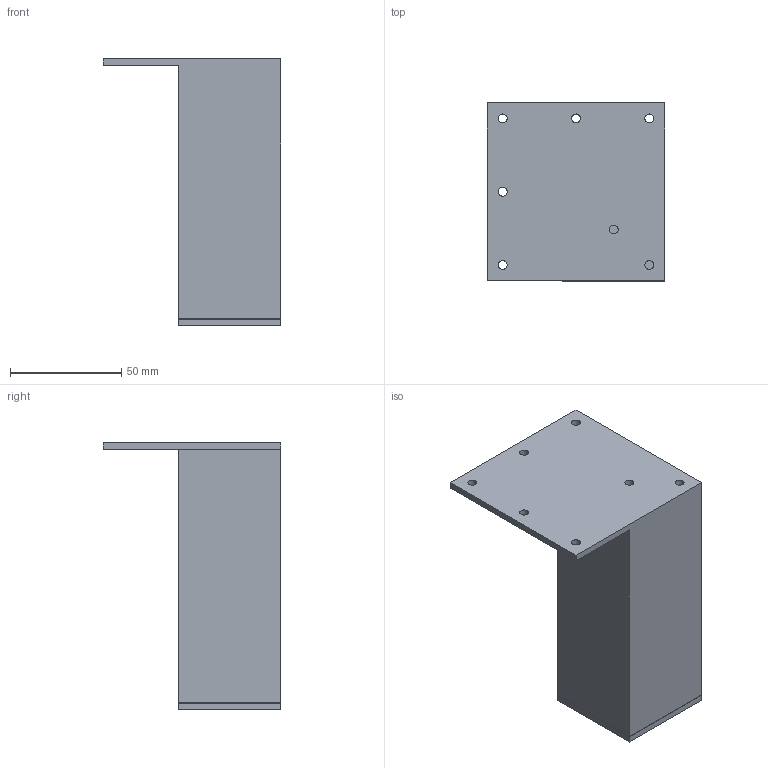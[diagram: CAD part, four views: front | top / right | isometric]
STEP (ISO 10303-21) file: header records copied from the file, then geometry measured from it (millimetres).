
FILE_DESCRIPTION( ( '' ), '1' );
FILE_NAME( 'D:/temp/hettich_stp/hettich/6.5_furniture_legs/furniture_legs/45084.stp', '2013-02-26T12:27:38', ( '' ), ( '' ), ' ', ' ', ' ' );
FILE_SCHEMA( ( 'automotive_design' ) );
Length unit declared in the file: millimetre
Products named in the file (1): 1
Bounding box: 80 x 80 x 120 mm (x, y, z)
Volume: 45785.9 mm3; surface area: 59493.2 mm2
Topology: 1 solids, 1 shells, 39 faces, 99 edges, 66 vertices
Faces by surface type: plane 25, cylinder 14
Entity records: 2366 total; most frequent: DIRECTION 207, STYLED_ITEM 205, PRESENTATION_STYLE_ASSIGNMENT 205, CARTESIAN_POINT 205, COLOUR_RGB 205, ORIENTED_EDGE 198, EDGE_CURVE 99, CURVE_STYLE 99
